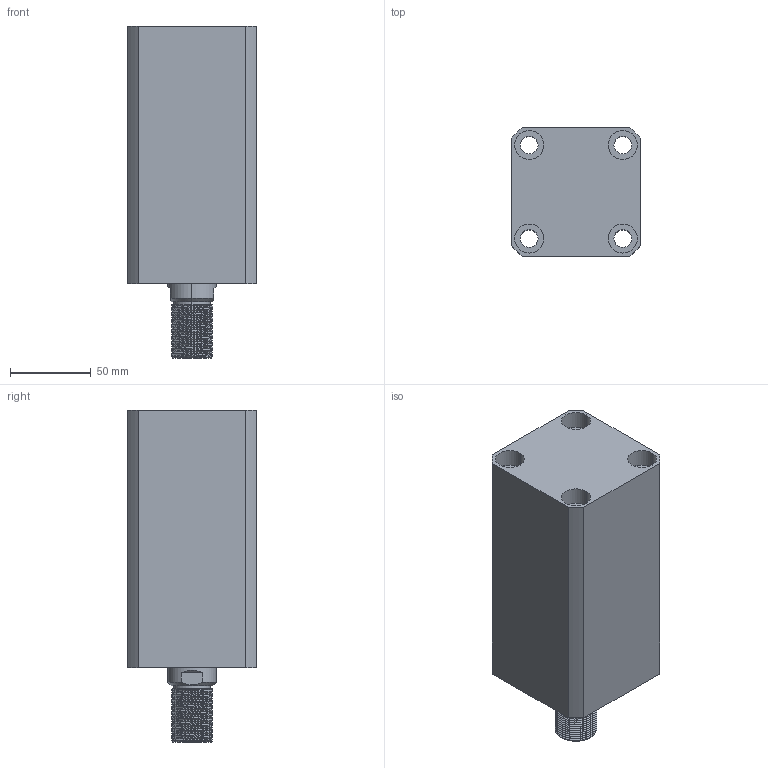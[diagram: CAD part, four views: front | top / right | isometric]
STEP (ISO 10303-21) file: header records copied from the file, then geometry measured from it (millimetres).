
FILE_DESCRIPTION (( 'STEP AP203' ), '1' );
FILE_NAME ('CHTB-SDMA50-100W.STEP', '2018-05-19T03:10:45', ( '' ), ( '' ), 'SwSTEP 2.0', 'SolidWorks 2015', '' );
FILE_SCHEMA (( 'CONFIG_CONTROL_DESIGN' ));
Length unit declared in the file: millimetre
Products named in the file (5): CHTM-SDMA50QG; 掛极SDMA50-100W; CHTB-SDMA50-100W; 活塞杆SDMA50-100W; M6
Assembly tree (5 placements, depth 2):
  CHTB-SDMA50-100W
    掛极SDMA50-100W
    活塞杆SDMA50-100W
    CHTM-SDMA50QG
    M6  x2
Bounding box: 80 x 80 x 206 mm (x, y, z)
Volume: 828769.3 mm3; surface area: 152177.1 mm2
Topology: 5 solids, 5 shells, 312 faces, 831 edges, 553 vertices
Faces by surface type: cylinder 179, plane 60, cone 29, bspline 28, torus 16
Entity records: 17949 total; most frequent: CARTESIAN_POINT 11067, ORIENTED_EDGE 1468, DIRECTION 1169, EDGE_CURVE 734, VERTEX_POINT 492, AXIS2_PLACEMENT_3D 472, EDGE_LOOP 320, FACE_OUTER_BOUND 277
